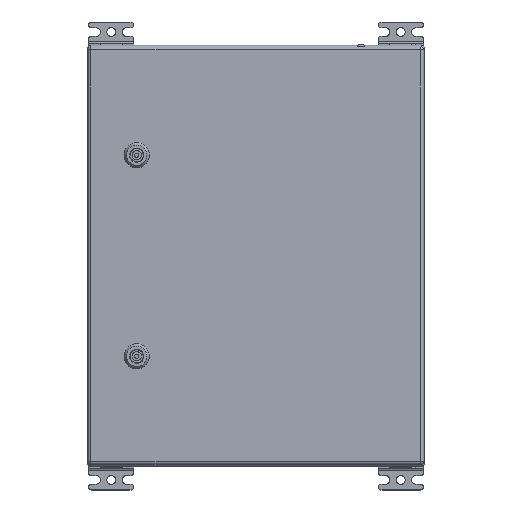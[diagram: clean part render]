
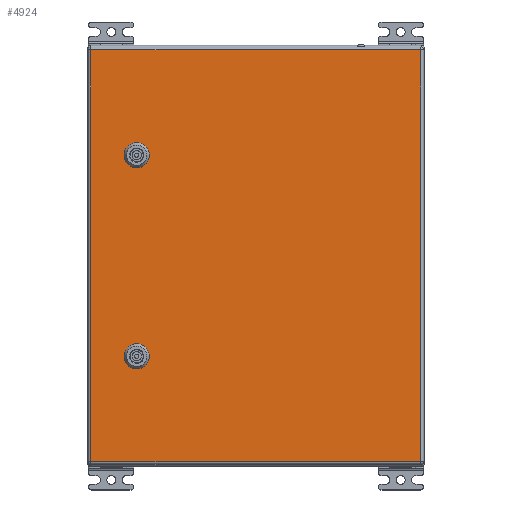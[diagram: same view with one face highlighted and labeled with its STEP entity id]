
A CAD part, top view. The second image highlights one B-rep face of the part: STEP entity #4924.
In plain terms, the highlighted planar face has unit normal (0, 0, 1).
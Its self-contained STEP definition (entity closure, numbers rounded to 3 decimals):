
#4924=ADVANCED_FACE('',(#12599,#12601,#12603),#12605,.T.);
#12599=FACE_BOUND('',#12600,.T.);
#12600=EDGE_LOOP('',(#34791,#34792,#34793,#34794));
#12601=FACE_BOUND('',#12602,.T.);
#12602=EDGE_LOOP('',(#34795,#34796,#34797,#34798,#34799,#34800,#34801,#34802));
#12603=FACE_BOUND('',#12604,.T.);
#12604=EDGE_LOOP('',(#34803,#34804,#34805,#34806,#34807,#34808,#34809,#34810));
#12605=PLANE('',#12606);
#12606=AXIS2_PLACEMENT_3D('',#12607,#12608,#12609);
#12607=CARTESIAN_POINT('',(0.,0.,1.5));
#12608=DIRECTION('',(0.,0.,1.));
#12609=DIRECTION('',(1.,0.,0.));
#34791=ORIENTED_EDGE('',*,*,#38952,.T.);
#34792=ORIENTED_EDGE('',*,*,#38953,.T.);
#34793=ORIENTED_EDGE('',*,*,#38954,.T.);
#34794=ORIENTED_EDGE('',*,*,#38955,.T.);
#34795=ORIENTED_EDGE('',*,*,#38920,.T.);
#34796=ORIENTED_EDGE('',*,*,#38934,.T.);
#34797=ORIENTED_EDGE('',*,*,#38932,.T.);
#34798=ORIENTED_EDGE('',*,*,#38930,.T.);
#34799=ORIENTED_EDGE('',*,*,#38928,.T.);
#34800=ORIENTED_EDGE('',*,*,#38926,.T.);
#34801=ORIENTED_EDGE('',*,*,#38924,.T.);
#34802=ORIENTED_EDGE('',*,*,#38922,.T.);
#34803=ORIENTED_EDGE('',*,*,#38904,.T.);
#34804=ORIENTED_EDGE('',*,*,#38918,.T.);
#34805=ORIENTED_EDGE('',*,*,#38916,.T.);
#34806=ORIENTED_EDGE('',*,*,#38914,.T.);
#34807=ORIENTED_EDGE('',*,*,#38912,.T.);
#34808=ORIENTED_EDGE('',*,*,#38910,.T.);
#34809=ORIENTED_EDGE('',*,*,#38908,.T.);
#34810=ORIENTED_EDGE('',*,*,#38906,.T.);
#38904=EDGE_CURVE('',#42304,#42302,#42305,.T.);
#38906=EDGE_CURVE('',#42307,#42304,#42308,.F.);
#38908=EDGE_CURVE('',#42310,#42307,#42311,.T.);
#38910=EDGE_CURVE('',#42313,#42310,#42314,.F.);
#38912=EDGE_CURVE('',#42316,#42313,#42317,.T.);
#38914=EDGE_CURVE('',#42319,#42316,#42320,.F.);
#38916=EDGE_CURVE('',#42322,#42319,#42323,.T.);
#38918=EDGE_CURVE('',#42302,#42322,#42325,.F.);
#38920=EDGE_CURVE('',#42328,#42326,#42329,.T.);
#38922=EDGE_CURVE('',#42331,#42328,#42332,.F.);
#38924=EDGE_CURVE('',#42334,#42331,#42335,.T.);
#38926=EDGE_CURVE('',#42337,#42334,#42338,.F.);
#38928=EDGE_CURVE('',#42340,#42337,#42341,.T.);
#38930=EDGE_CURVE('',#42343,#42340,#42344,.F.);
#38932=EDGE_CURVE('',#42346,#42343,#42347,.T.);
#38934=EDGE_CURVE('',#42326,#42346,#42349,.F.);
#38952=EDGE_CURVE('',#42376,#42377,#42378,.T.);
#38953=EDGE_CURVE('',#42377,#42379,#42380,.T.);
#38954=EDGE_CURVE('',#42379,#42381,#42382,.T.);
#38955=EDGE_CURVE('',#42381,#42376,#42383,.T.);
#42302=VERTEX_POINT('',#51453);
#42304=VERTEX_POINT('',#51457);
#42305=CIRCLE('',#51458,11.25);
#42307=VERTEX_POINT('',#51465);
#42308=LINE('',#51466,#51467);
#42310=VERTEX_POINT('',#51472);
#42311=CIRCLE('',#51473,11.25);
#42313=VERTEX_POINT('',#51480);
#42314=LINE('',#51481,#51482);
#42316=VERTEX_POINT('',#51487);
#42317=CIRCLE('',#51488,11.25);
#42319=VERTEX_POINT('',#51495);
#42320=LINE('',#51496,#51497);
#42322=VERTEX_POINT('',#51502);
#42323=CIRCLE('',#51503,11.25);
#42325=LINE('',#51510,#51511);
#42326=VERTEX_POINT('',#51513);
#42328=VERTEX_POINT('',#51517);
#42329=CIRCLE('',#51518,11.25);
#42331=VERTEX_POINT('',#51525);
#42332=LINE('',#51526,#51527);
#42334=VERTEX_POINT('',#51532);
#42335=CIRCLE('',#51533,11.25);
#42337=VERTEX_POINT('',#51540);
#42338=LINE('',#51541,#51542);
#42340=VERTEX_POINT('',#51547);
#42341=CIRCLE('',#51548,11.25);
#42343=VERTEX_POINT('',#51555);
#42344=LINE('',#51556,#51557);
#42346=VERTEX_POINT('',#51562);
#42347=CIRCLE('',#51563,11.25);
#42349=LINE('',#51570,#51571);
#42376=VERTEX_POINT('',#51634);
#42377=VERTEX_POINT('',#51635);
#42378=LINE('',#51636,#51637);
#42379=VERTEX_POINT('',#51639);
#42380=LINE('',#51640,#51641);
#42381=VERTEX_POINT('',#51643);
#42382=LINE('',#51644,#51645);
#42383=LINE('',#51647,#51648);
#51453=CARTESIAN_POINT('',(-129.955,-44.4,1.5));
#51457=CARTESIAN_POINT('',(-135.1,-49.545,1.5));
#51458=AXIS2_PLACEMENT_3D('',#51459,#51460,#51461);
#51459=CARTESIAN_POINT('',(-125.,-54.5,1.5));
#51460=DIRECTION('',(0.,0.,-1.));
#51461=DIRECTION('',(-0.898,0.44,0.));
#51465=CARTESIAN_POINT('',(-135.1,-59.455,1.5));
#51466=CARTESIAN_POINT('',(-135.1,-49.545,1.5));
#51467=VECTOR('',#51468,1.);
#51468=DIRECTION('',(0.,-1.,0.));
#51472=CARTESIAN_POINT('',(-129.955,-64.6,1.5));
#51473=AXIS2_PLACEMENT_3D('',#51474,#51475,#51476);
#51474=CARTESIAN_POINT('',(-125.,-54.5,1.5));
#51475=DIRECTION('',(0.,0.,-1.));
#51476=DIRECTION('',(-0.44,-0.898,0.));
#51480=CARTESIAN_POINT('',(-120.045,-64.6,1.5));
#51481=CARTESIAN_POINT('',(-129.955,-64.6,1.5));
#51482=VECTOR('',#51483,1.);
#51483=DIRECTION('',(1.,0.,0.));
#51487=CARTESIAN_POINT('',(-114.9,-59.455,1.5));
#51488=AXIS2_PLACEMENT_3D('',#51489,#51490,#51491);
#51489=CARTESIAN_POINT('',(-125.,-54.5,1.5));
#51490=DIRECTION('',(0.,0.,-1.));
#51491=DIRECTION('',(0.898,-0.44,0.));
#51495=CARTESIAN_POINT('',(-114.9,-49.545,1.5));
#51496=CARTESIAN_POINT('',(-114.9,-59.455,1.5));
#51497=VECTOR('',#51498,1.);
#51498=DIRECTION('',(0.,1.,0.));
#51502=CARTESIAN_POINT('',(-120.045,-44.4,1.5));
#51503=AXIS2_PLACEMENT_3D('',#51504,#51505,#51506);
#51504=CARTESIAN_POINT('',(-125.,-54.5,1.5));
#51505=DIRECTION('',(0.,0.,-1.));
#51506=DIRECTION('',(0.44,0.898,0.));
#51510=CARTESIAN_POINT('',(-120.045,-44.4,1.5));
#51511=VECTOR('',#51512,1.);
#51512=DIRECTION('',(-1.,0.,0.));
#51513=CARTESIAN_POINT('',(-368.955,-44.4,1.5));
#51517=CARTESIAN_POINT('',(-374.1,-49.545,1.5));
#51518=AXIS2_PLACEMENT_3D('',#51519,#51520,#51521);
#51519=CARTESIAN_POINT('',(-364.,-54.5,1.5));
#51520=DIRECTION('',(0.,0.,-1.));
#51521=DIRECTION('',(-0.898,0.44,0.));
#51525=CARTESIAN_POINT('',(-374.1,-59.455,1.5));
#51526=CARTESIAN_POINT('',(-374.1,-49.545,1.5));
#51527=VECTOR('',#51528,1.);
#51528=DIRECTION('',(0.,-1.,0.));
#51532=CARTESIAN_POINT('',(-368.955,-64.6,1.5));
#51533=AXIS2_PLACEMENT_3D('',#51534,#51535,#51536);
#51534=CARTESIAN_POINT('',(-364.,-54.5,1.5));
#51535=DIRECTION('',(0.,0.,-1.));
#51536=DIRECTION('',(-0.44,-0.898,0.));
#51540=CARTESIAN_POINT('',(-359.045,-64.6,1.5));
#51541=CARTESIAN_POINT('',(-368.955,-64.6,1.5));
#51542=VECTOR('',#51543,1.);
#51543=DIRECTION('',(1.,0.,0.));
#51547=CARTESIAN_POINT('',(-353.9,-59.455,1.5));
#51548=AXIS2_PLACEMENT_3D('',#51549,#51550,#51551);
#51549=CARTESIAN_POINT('',(-364.,-54.5,1.5));
#51550=DIRECTION('',(0.,0.,-1.));
#51551=DIRECTION('',(0.898,-0.44,0.));
#51555=CARTESIAN_POINT('',(-353.9,-49.545,1.5));
#51556=CARTESIAN_POINT('',(-353.9,-59.455,1.5));
#51557=VECTOR('',#51558,1.);
#51558=DIRECTION('',(0.,1.,0.));
#51562=CARTESIAN_POINT('',(-359.045,-44.4,1.5));
#51563=AXIS2_PLACEMENT_3D('',#51564,#51565,#51566);
#51564=CARTESIAN_POINT('',(-364.,-54.5,1.5));
#51565=DIRECTION('',(0.,0.,-1.));
#51566=DIRECTION('',(0.44,0.898,0.));
#51570=CARTESIAN_POINT('',(-359.045,-44.4,1.5));
#51571=VECTOR('',#51572,1.);
#51572=DIRECTION('',(-1.,0.,0.));
#51634=CARTESIAN_POINT('',(-489.,0.,1.5));
#51635=CARTESIAN_POINT('',(-489.,-392.,1.5));
#51636=CARTESIAN_POINT('',(-489.,0.,1.5));
#51637=VECTOR('',#51638,1.);
#51638=DIRECTION('',(0.,-1.,0.));
#51639=CARTESIAN_POINT('',(0.,-392.,1.5));
#51640=CARTESIAN_POINT('',(-489.,-392.,1.5));
#51641=VECTOR('',#51642,1.);
#51642=DIRECTION('',(1.,0.,0.));
#51643=CARTESIAN_POINT('',(0.,0.,1.5));
#51644=CARTESIAN_POINT('',(0.,-392.,1.5));
#51645=VECTOR('',#51646,1.);
#51646=DIRECTION('',(0.,1.,0.));
#51647=CARTESIAN_POINT('',(0.,0.,1.5));
#51648=VECTOR('',#51649,1.);
#51649=DIRECTION('',(-1.,0.,0.));
